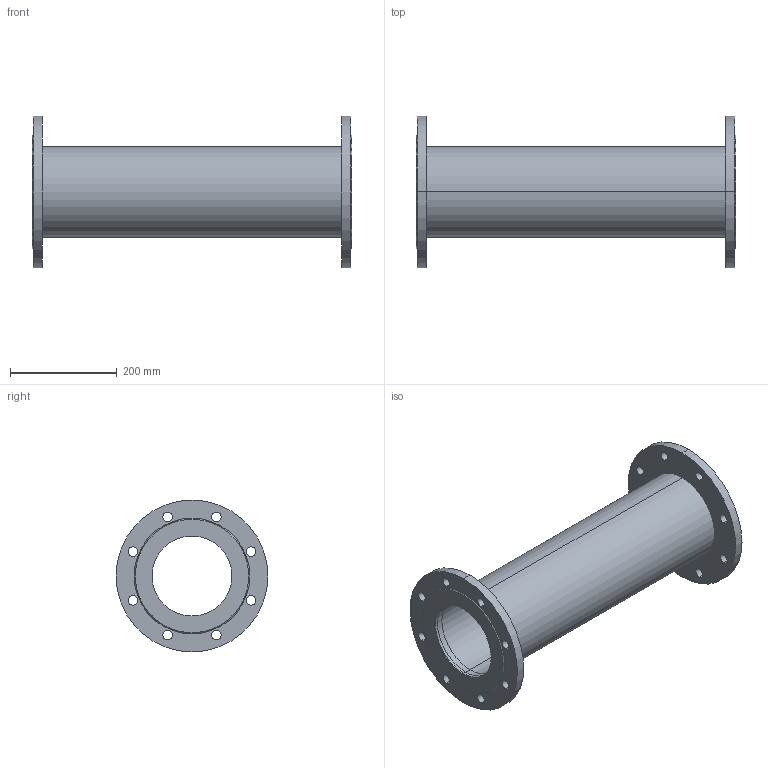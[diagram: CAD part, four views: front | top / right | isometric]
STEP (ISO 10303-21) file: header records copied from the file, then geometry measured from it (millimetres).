
FILE_DESCRIPTION(('STEP AP214'),'1');
FILE_NAME('U:/VDI-Daten/8500/8500_PN16_DN150_L600.STP','2012-06-12T15:31:52',(' '),(' '),'Spatial InterOp 3D',' ',' ');
FILE_SCHEMA(('automotive_design'));
Length unit declared in the file: millimetre
Products named in the file (5): 3D-Objekt
Bounding box: 600 x 285 x 285 mm (x, y, z)
Volume: 4514018.9 mm3; surface area: 916604.3 mm2
Topology: 5 solids, 5 shells, 62 faces, 156 edges, 104 vertices
Faces by surface type: cylinder 48, plane 10, cone 4
Entity records: 2621 total; most frequent: DIRECTION 394, CARTESIAN_POINT 327, ORIENTED_EDGE 312, AXIS2_PLACEMENT_3D 171, EDGE_CURVE 156, EDGE_LOOP 104, VERTEX_POINT 104, CIRCLE 104
